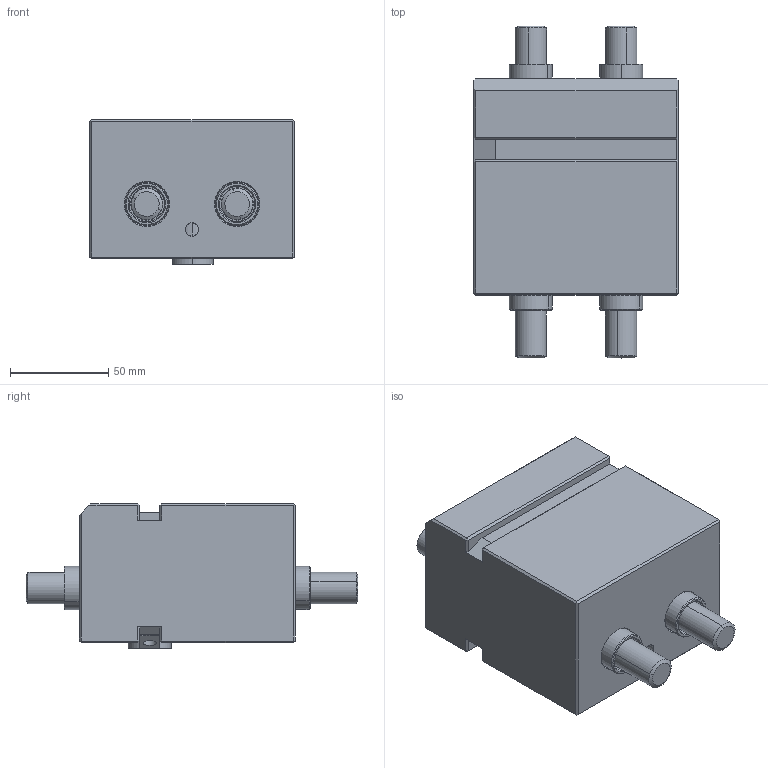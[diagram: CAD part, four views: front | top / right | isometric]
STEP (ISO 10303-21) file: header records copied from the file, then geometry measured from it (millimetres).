
FILE_DESCRIPTION (( 'STEP AP203' ), '1' );
FILE_NAME ('FK-ZM46.STEP', '2026-05-14T06:00:59', ( 'USER-' ), ( 'Microsoft' ), 'SwSTEP 2.0', 'SolidWorks 2018', '' );
FILE_SCHEMA (( 'CONFIG_CONTROL_DESIGN' ));
Length unit declared in the file: millimetre
Products named in the file (8): ﾏ擎ﾗ22｡ﾁ18｡ﾁ12; 546754FK-ZM32-03 巠饜种-1; 345365453FK-ZM32-01 假蚾價釱; 内六角圆柱头螺钉[GBT70_1-2008][M16×50]_M16×50; 67347FK-ZM32-02 坶踡种-1; 30x14-R3; FK-ZM46; 内六角圆柱头螺钉[GBT70_1-2008][M16×45]_M16×45
Assembly tree (11 placements, depth 2):
  FK-ZM46
    345365453FK-ZM32-01 假蚾價釱
    67347FK-ZM32-02 坶踡种-1
    546754FK-ZM32-03 巠饜种-1  x2
    ﾏ擎ﾗ22｡ﾁ18｡ﾁ12  x2
    内六角圆柱头螺钉[GBT70_1-2008][M16×45]_M16×45  x2
    内六角圆柱头螺钉[GBT70_1-2008][M16×50]_M16×50  x2
    30x14-R3
Bounding box: 104 x 169 x 73.8 mm (x, y, z)
Volume: 796433.8 mm3; surface area: 133410.3 mm2
Topology: 11 solids, 11 shells, 709 faces, 1834 edges, 1189 vertices
Faces by surface type: plane 367, bspline 159, cylinder 127, cone 40, torus 16
Entity records: 30554 total; most frequent: CARTESIAN_POINT 14571, ORIENTED_EDGE 3392, DIRECTION 2608, EDGE_CURVE 1696, LINE 1110, VECTOR 1110, VERTEX_POINT 1105, AXIS2_PLACEMENT_3D 749
